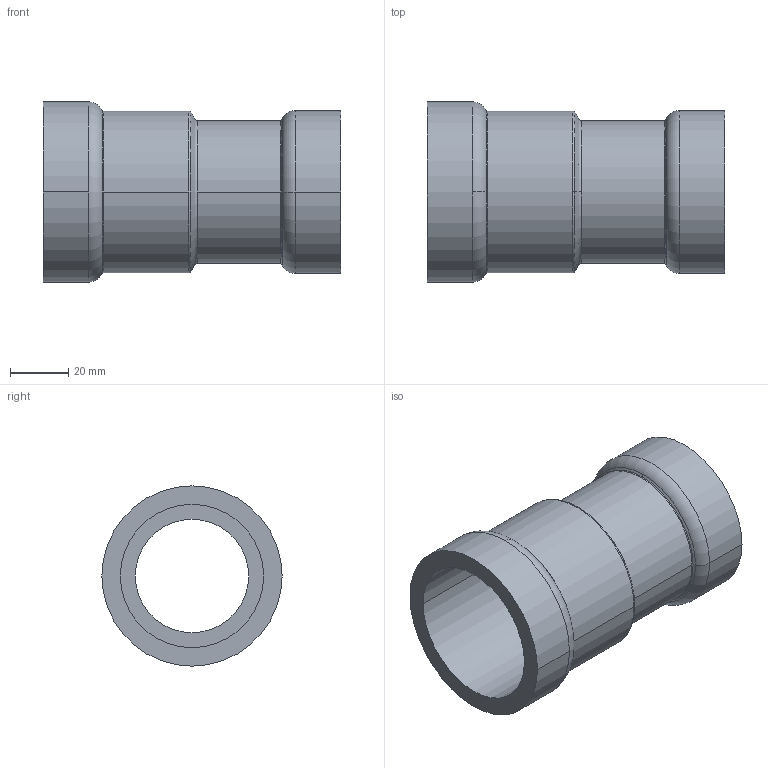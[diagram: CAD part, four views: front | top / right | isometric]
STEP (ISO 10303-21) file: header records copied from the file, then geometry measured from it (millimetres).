
FILE_DESCRIPTION(('Creo Elements/Direct Modeling STEP Export'),'2;1');
FILE_NAME('C9439_1-1-2_1-1-4.stp','2020-07-20T10:17:47',(''),(''),'PTC Creo Elements/Direct Modeling STEP processor for AP214 (Solid Model)','PTC Creo Elements/Direct Modeling 19.0C 15-Aug-2015 (C) Parametric Technology GmbH','');
FILE_SCHEMA(('AUTOMOTIVE_DESIGN { 1 0 10303 214 1 1 1 1 }'));
Length unit declared in the file: millimetre
Products named in the file (2): C9439_1-1-2_1-1-4
Assembly tree (1 placements, depth 2):
  C9439_1-1-2_1-1-4
    C9439_1-1-2_1-1-4
Bounding box: 102.5 x 62 x 62 mm (x, y, z)
Volume: 72301.4 mm3; surface area: 36339.8 mm2
Topology: 1 solids, 1 shells, 34 faces, 80 edges, 50 vertices
Faces by surface type: cylinder 14, torus 12, plane 4, cone 4
Entity records: 900 total; most frequent: ORIENTED_EDGE 160, DIRECTION 152, CARTESIAN_POINT 135, EDGE_CURVE 80, AXIS2_PLACEMENT_3D 67, VERTEX_POINT 50, EDGE_LOOP 38, FACE_OUTER_BOUND 34
